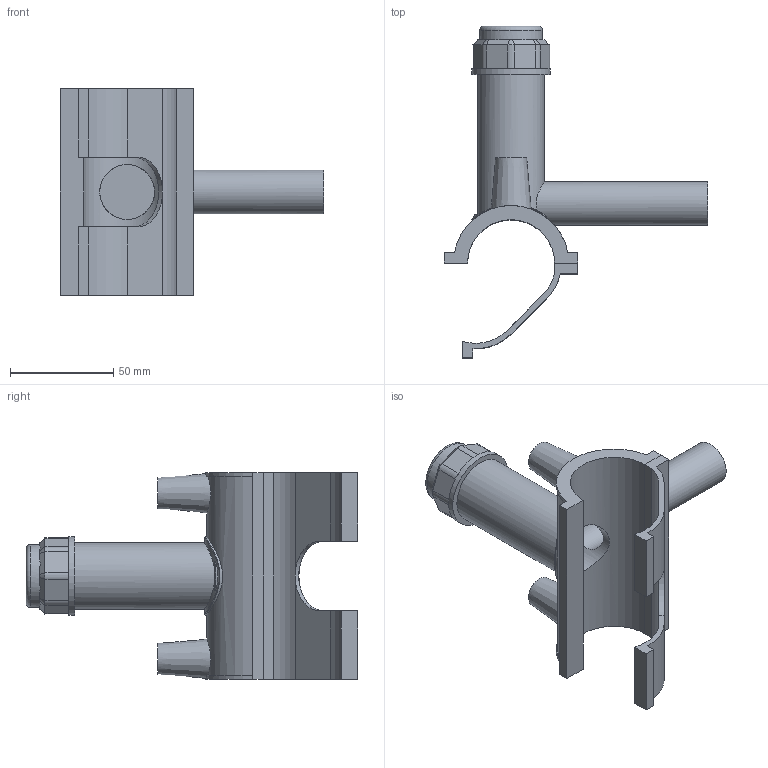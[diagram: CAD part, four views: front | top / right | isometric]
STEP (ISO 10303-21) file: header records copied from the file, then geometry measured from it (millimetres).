
FILE_DESCRIPTION(/* description */ ('PLASSON TAPPING SADDLE 1 1/4''''IPS x 1/2''''IPS'),/* implementation_level */ '2;1');
FILE_NAME(/* name */ 'C:\Dropbox\KIMPROJECTS-Inventor 2019\99-16-3568-Processing Inch\ASTM ElectroFusion 2021\5963B\5963BB03013005.ipt.stp',/* time_stamp */ '2021-08-30T09:54:45+03:00',/* author */ ('KIM'),/* organization */ (''),/* preprocessor_version */ 'ST-DEVELOPER v17.2',/* originating_system */ 'Autodesk Inventor 2019',/* authorisation */ '');
FILE_SCHEMA (('AUTOMOTIVE_DESIGN { 1 0 10303 214 3 1 1 }'));
Length unit declared in the file: millimetre
Products named in the file (1): 5963BB03013005
Bounding box: 127.25 x 160.41 x 100.08 mm (x, y, z)
Volume: 127349.2 mm3; surface area: 62131 mm2
Topology: 2 solids, 2 shells, 111 faces, 290 edges, 191 vertices
Faces by surface type: plane 66, cylinder 32, cone 11, torus 1, bspline 1
Full cylindrical faces by diameter (mm): 4 x2, 10 x2, 16.96 x1, 21.2 x1, 26.523 x1, 30.312 x1, 32.206 x1, 37.89 x1
Entity records: 3947 total; most frequent: CARTESIAN_POINT 1144, ORIENTED_EDGE 580, DIRECTION 577, EDGE_CURVE 290, AXIS2_PLACEMENT_3D 210, VERTEX_POINT 191, LINE 157, VECTOR 157
